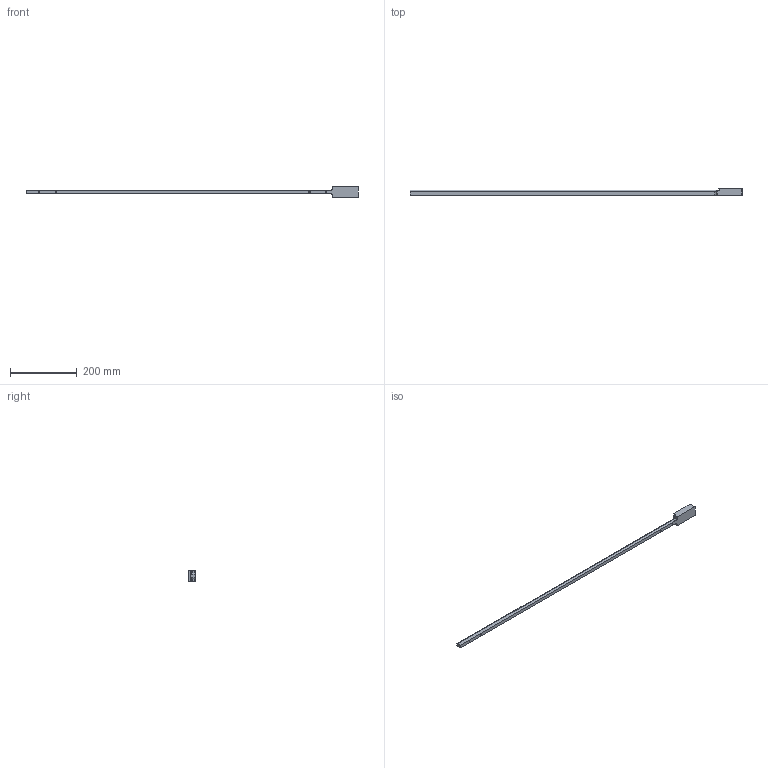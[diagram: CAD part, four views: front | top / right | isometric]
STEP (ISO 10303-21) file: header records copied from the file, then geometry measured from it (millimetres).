
FILE_DESCRIPTION (( 'STEP AP214' ), '1' );
FILE_NAME ('LL-900.STEP', '2026-02-06T16:46:19', ( '' ), ( '' ), 'SwSTEP 2.0', 'SolidWorks 2022', '' );
FILE_SCHEMA (( 'AUTOMOTIVE_DESIGN' ));
Length unit declared in the file: millimetre
Products named in the file (1): LL-900
Bounding box: 995.7 x 20 x 32.5 mm (x, y, z)
Volume: 171623.2 mm3; surface area: 58606.7 mm2
Topology: 1 solids, 1 shells, 175 faces, 453 edges, 296 vertices
Faces by surface type: plane 152, cylinder 15, cone 8
Full cylindrical faces by diameter (mm): 2.5 x2, 3 x2
Entity records: 6324 total; most frequent: CARTESIAN_POINT 921, ORIENTED_EDGE 874, DIRECTION 815, EDGE_CURVE 437, VECTOR 399, LINE 399, VERTEX_POINT 290, AXIS2_PLACEMENT_3D 208
